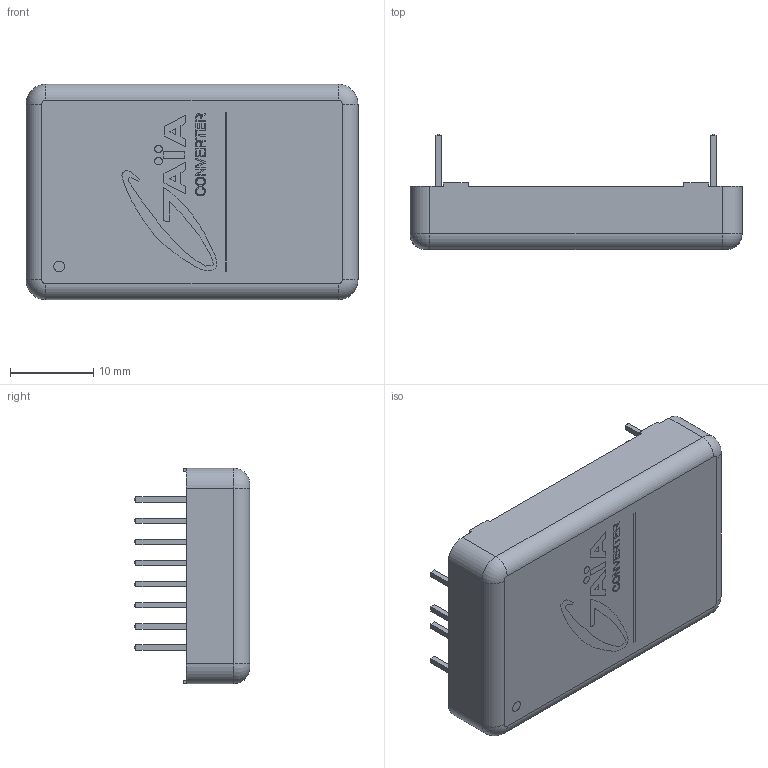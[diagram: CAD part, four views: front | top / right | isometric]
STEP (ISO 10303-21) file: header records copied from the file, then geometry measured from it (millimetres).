
FILE_DESCRIPTION(/* description */ ('Alibre Inc.'),/* implementation_level */ '2;1');
FILE_NAME(/* name */ 'export-B16F3CDA-18DD-4CB6-828B-DB1C06B3FECC',/* time_stamp */ '2023-11-06T16:42:32+01:00',/* author */ (''),/* organization */ (''),/* preprocessor_version */ 'ST-DEVELOPER v17',/* originating_system */ 'Alibre',/* authorisation */ '');
FILE_SCHEMA (('AUTOMOTIVE_DESIGN'));
Length unit declared in the file: millimetre
Bounding box: 39.9 x 13.88 x 25.91 mm (x, y, z)
Volume: 1262.6 mm3; surface area: 6060.1 mm2
Topology: 1 solids, 2 shells, 554 faces, 1389 edges, 896 vertices
Faces by surface type: plane 487, cylinder 42, bspline 13, torus 12
Full cylindrical faces by diameter (mm): 0.908 x1, 0.92 x1, 1.3 x1, 1.4 x11
Entity records: 15808 total; most frequent: CARTESIAN_POINT 3583, ORIENTED_EDGE 2722, DIRECTION 1887, EDGE_CURVE 1361, VECTOR 1171, LINE 1171, VERTEX_POINT 882, EDGE_LOOP 625
